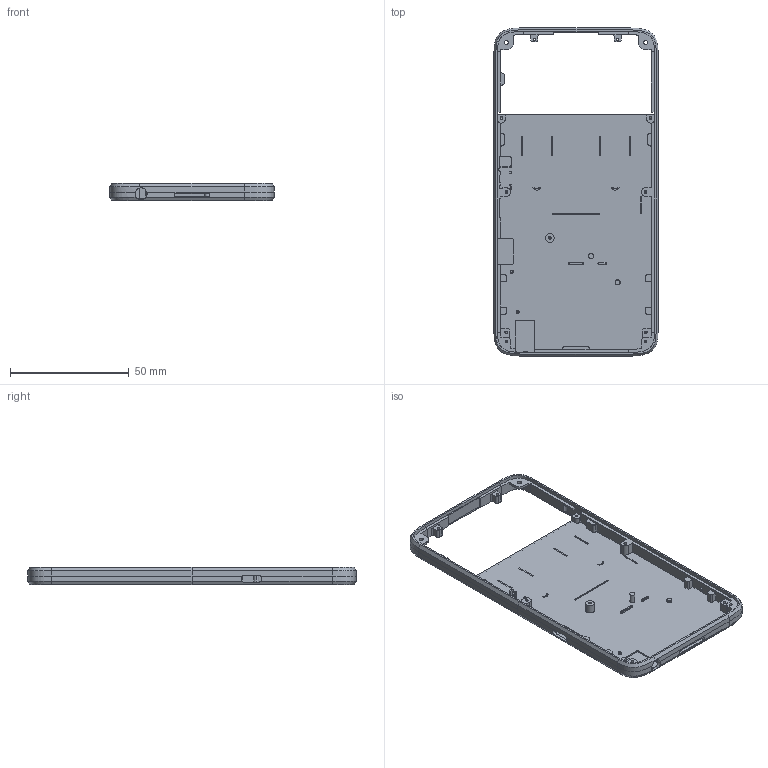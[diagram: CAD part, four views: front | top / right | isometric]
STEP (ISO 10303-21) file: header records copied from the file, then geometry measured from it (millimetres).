
FILE_DESCRIPTION (( 'STEP AP214' ), '1' );
FILE_NAME ('bottom-case-pvt2b-a2.STEP', '2021-06-16T07:47:59', ( '' ), ( '' ), 'SwSTEP 2.0', 'SolidWorks 2020', '' );
FILE_SCHEMA (( 'AUTOMOTIVE_DESIGN' ));
Length unit declared in the file: millimetre
Products named in the file (1): bottom-case-pvt2b-a2
Bounding box: 69 x 138 x 7.2 mm (x, y, z)
Volume: 12961 mm3; surface area: 20418.7 mm2
Topology: 1 solids, 1 shells, 450 faces, 1192 edges, 745 vertices
Faces by surface type: plane 244, cylinder 139, cone 36, bspline 31
Entity records: 15005 total; most frequent: CARTESIAN_POINT 3537, ORIENTED_EDGE 2348, DIRECTION 2257, EDGE_CURVE 1174, VECTOR 807, LINE 807, VERTEX_POINT 745, AXIS2_PLACEMENT_3D 725
